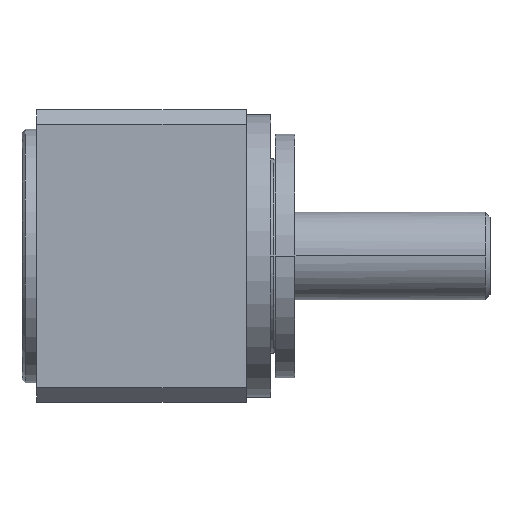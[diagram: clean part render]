
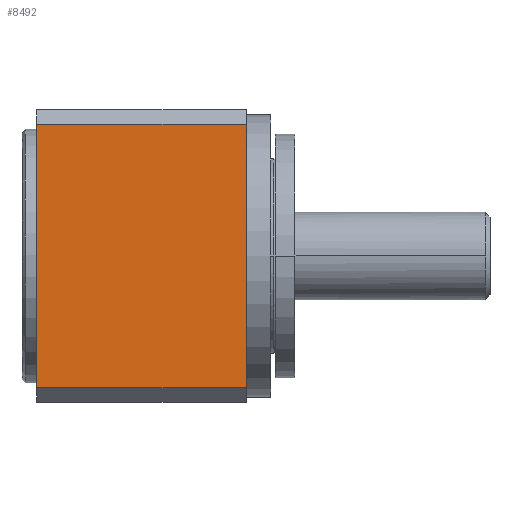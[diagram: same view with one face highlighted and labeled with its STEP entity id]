
A CAD part, front view. The second image highlights one B-rep face of the part: STEP entity #8492.
In plain terms, the highlighted planar face has unit normal (0, -1, 0).
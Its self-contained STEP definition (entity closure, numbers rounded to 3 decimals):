
#109 = EDGE_CURVE ( 'NONE', #10941, #6777, #1408, .T. ) ;
#531 = ORIENTED_EDGE ( 'NONE', *, *, #7529, .T. ) ;
#710 = CARTESIAN_POINT ( 'NONE',  ( 63.926, -15., 13.5 ) ) ;
#731 = EDGE_CURVE ( 'NONE', #3069, #5373, #9704, .T. ) ;
#1408 = LINE ( 'NONE', #7820, #11205 ) ;
#1809 = PLANE ( 'NONE',  #4552 ) ;
#2056 = CARTESIAN_POINT ( 'NONE',  ( 21.5, -15., -15. ) ) ;
#2773 = DIRECTION ( 'NONE',  ( 0., 0., -1. ) ) ;
#2925 = ORIENTED_EDGE ( 'NONE', *, *, #10863, .T. ) ;
#3069 = VERTEX_POINT ( 'NONE', #8448 ) ;
#4552 = AXIS2_PLACEMENT_3D ( 'NONE', #4617, #8447, #2773 ) ;
#4617 = CARTESIAN_POINT ( 'NONE',  ( 63.926, -15., -15. ) ) ;
#4739 = EDGE_LOOP ( 'NONE', ( #12270, #531, #12157, #2925 ) ) ;
#4959 = CARTESIAN_POINT ( 'NONE',  ( 63.926, -15., -13.5 ) ) ;
#5250 = VECTOR ( 'NONE', #8304, 1000. ) ;
#5373 = VERTEX_POINT ( 'NONE', #10467 ) ;
#5743 = CARTESIAN_POINT ( 'NONE',  ( 0., -15., 13.5 ) ) ;
#6486 = CARTESIAN_POINT ( 'NONE',  ( 0., -15., -13.5 ) ) ;
#6777 = VERTEX_POINT ( 'NONE', #5743 ) ;
#7529 = EDGE_CURVE ( 'NONE', #10941, #5373, #8319, .T. ) ;
#7820 = CARTESIAN_POINT ( 'NONE',  ( 0., -15., -15. ) ) ;
#8304 = DIRECTION ( 'NONE',  ( -1., 0., 0. ) ) ;
#8319 = LINE ( 'NONE', #4959, #9962 ) ;
#8447 = DIRECTION ( 'NONE',  ( 0., -1., 0. ) ) ;
#8448 = CARTESIAN_POINT ( 'NONE',  ( 21.5, -15., 13.5 ) ) ;
#8492 = ADVANCED_FACE ( 'NONE', ( #10178 ), #1809, .T. ) ;
#9704 = LINE ( 'NONE', #2056, #11947 ) ;
#9962 = VECTOR ( 'NONE', #10653, 1000. ) ;
#10006 = LINE ( 'NONE', #710, #5250 ) ;
#10178 = FACE_OUTER_BOUND ( 'NONE', #4739, .T. ) ;
#10388 = DIRECTION ( 'NONE',  ( 0., 0., 1. ) ) ;
#10467 = CARTESIAN_POINT ( 'NONE',  ( 21.5, -15., -13.5 ) ) ;
#10492 = DIRECTION ( 'NONE',  ( 0., 0., -1. ) ) ;
#10653 = DIRECTION ( 'NONE',  ( 1., 0., 0. ) ) ;
#10863 = EDGE_CURVE ( 'NONE', #3069, #6777, #10006, .T. ) ;
#10941 = VERTEX_POINT ( 'NONE', #6486 ) ;
#11205 = VECTOR ( 'NONE', #10388, 1000. ) ;
#11947 = VECTOR ( 'NONE', #10492, 1000. ) ;
#12157 = ORIENTED_EDGE ( 'NONE', *, *, #731, .F. ) ;
#12270 = ORIENTED_EDGE ( 'NONE', *, *, #109, .F. ) ;
